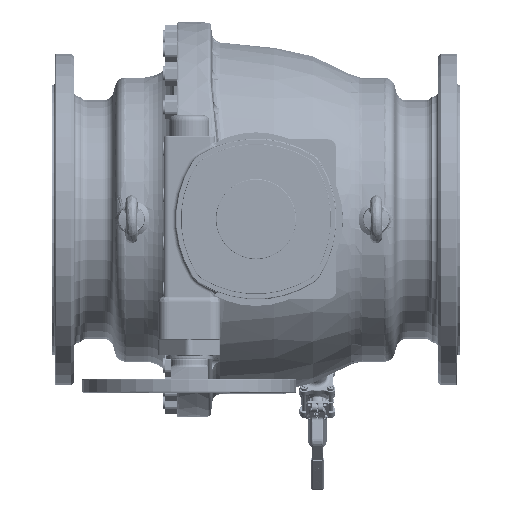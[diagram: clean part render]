
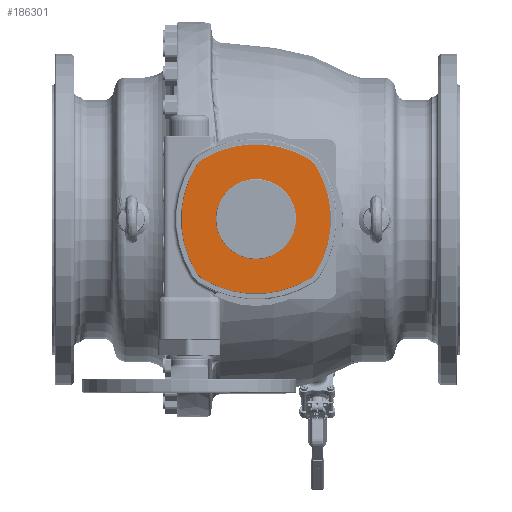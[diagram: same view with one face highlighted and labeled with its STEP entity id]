
A CAD part, top view. The second image highlights one B-rep face of the part: STEP entity #186301.
In plain terms, the highlighted planar face has unit normal (0, 0, 1).
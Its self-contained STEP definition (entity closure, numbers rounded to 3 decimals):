
#51503=CARTESIAN_POINT('',(0.,-50.,635.));
#51504=DIRECTION('',(0.,0.,-1.));
#51505=DIRECTION('',(-0.533,0.846,0.));
#51506=AXIS2_PLACEMENT_3D('',#51503,#51504,#51505);
#51517=CARTESIAN_POINT('',(85.34,85.34,635.));
#51518=DIRECTION('',(0.,0.,1.));
#51519=DIRECTION('',(0.846,0.533,0.));
#51520=AXIS2_PLACEMENT_3D('',#51517,#51518,#51519);
#51531=CARTESIAN_POINT('',(-50.,0.,635.));
#51532=DIRECTION('',(0.,0.,-1.));
#51533=DIRECTION('',(0.846,0.533,0.));
#51534=AXIS2_PLACEMENT_3D('',#51531,#51532,#51533);
#51545=CARTESIAN_POINT('',(85.34,-85.34,635.));
#51546=DIRECTION('',(0.,0.,1.));
#51547=DIRECTION('',(0.533,-0.846,0.));
#51548=AXIS2_PLACEMENT_3D('',#51545,#51546,#51547);
#51559=CARTESIAN_POINT('',(0.,50.,635.));
#51560=DIRECTION('',(0.,0.,-1.));
#51561=DIRECTION('',(0.533,-0.846,0.));
#51562=AXIS2_PLACEMENT_3D('',#51559,#51560,#51561);
#51573=CARTESIAN_POINT('',(-85.34,-85.34,635.));
#51574=DIRECTION('',(0.,0.,1.));
#51575=DIRECTION('',(-0.846,-0.533,0.));
#51576=AXIS2_PLACEMENT_3D('',#51573,#51574,#51575);
#51587=CARTESIAN_POINT('',(50.,0.,635.));
#51588=DIRECTION('',(0.,0.,-1.));
#51589=DIRECTION('',(-0.846,-0.533,0.));
#51590=AXIS2_PLACEMENT_3D('',#51587,#51588,#51589);
#51601=CARTESIAN_POINT('',(-85.34,85.34,635.));
#51602=DIRECTION('',(0.,0.,1.));
#51603=DIRECTION('',(-0.533,0.846,0.));
#51604=AXIS2_PLACEMENT_3D('',#51601,#51602,#51603);
#51606=CARTESIAN_POINT('',(0.,0.,635.));
#51607=DIRECTION('',(0.,0.,1.));
#51608=DIRECTION('',(-1.,0.,0.));
#51609=AXIS2_PLACEMENT_3D('',#51606,#51607,#51608);
#51611=CARTESIAN_POINT('',(0.,0.,635.));
#51612=DIRECTION('',(0.,0.,1.));
#51613=DIRECTION('',(1.,0.,0.));
#51614=AXIS2_PLACEMENT_3D('',#51611,#51612,#51613);
#81083=CARTESIAN_POINT('',(-75.,0.,635.));
#81084=CARTESIAN_POINT('',(75.,0.,635.));
#81085=VERTEX_POINT('',#81083);
#81086=VERTEX_POINT('',#81084);
#81087=CARTESIAN_POINT('',(101.342,-110.717,635.));
#81088=CARTESIAN_POINT('',(110.717,-101.342,635.));
#81089=VERTEX_POINT('',#81087);
#81090=VERTEX_POINT('',#81088);
#81091=CARTESIAN_POINT('',(110.717,101.342,635.));
#81092=VERTEX_POINT('',#81091);
#81093=CARTESIAN_POINT('',(101.342,110.717,635.));
#81094=VERTEX_POINT('',#81093);
#81095=CARTESIAN_POINT('',(-101.342,110.717,635.));
#81096=VERTEX_POINT('',#81095);
#81097=CARTESIAN_POINT('',(-110.717,101.342,635.));
#81098=VERTEX_POINT('',#81097);
#81099=CARTESIAN_POINT('',(-110.717,-101.342,635.));
#81100=VERTEX_POINT('',#81099);
#81101=CARTESIAN_POINT('',(-101.342,-110.717,635.));
#81102=VERTEX_POINT('',#81101);
#186280=CARTESIAN_POINT('',(0.,0.,635.));
#186281=DIRECTION('',(0.,0.,1.));
#186282=DIRECTION('',(1.,0.,0.));
#186283=AXIS2_PLACEMENT_3D('',#186280,#186281,#186282);
#186284=PLANE('',#186283);
#186285=ORIENTED_EDGE('',*,*,#186219,.F.);
#186286=ORIENTED_EDGE('',*,*,#186233,.T.);
#186287=ORIENTED_EDGE('',*,*,#186247,.F.);
#186288=ORIENTED_EDGE('',*,*,#186261,.T.);
#186289=ORIENTED_EDGE('',*,*,#186274,.F.);
#186290=ORIENTED_EDGE('',*,*,#186176,.T.);
#186291=ORIENTED_EDGE('',*,*,#186191,.F.);
#186292=ORIENTED_EDGE('',*,*,#186205,.T.);
#186293=EDGE_LOOP('',(#186285,#186286,#186287,#186288,#186289,#186290,#186291,
#186292));
#186294=FACE_OUTER_BOUND('',#186293,.F.);
#186296=ORIENTED_EDGE('',*,*,#186295,.T.);
#186298=ORIENTED_EDGE('',*,*,#186297,.T.);
#186299=EDGE_LOOP('',(#186296,#186298));
#186300=FACE_BOUND('',#186299,.F.);
#186301=ADVANCED_FACE('',(#186294,#186300),#186284,.T.);
#51507=CIRCLE('',#51506,190.);
#51521=CIRCLE('',#51520,30.);
#51535=CIRCLE('',#51534,190.);
#51549=CIRCLE('',#51548,30.);
#51563=CIRCLE('',#51562,190.);
#51577=CIRCLE('',#51576,30.);
#51591=CIRCLE('',#51590,190.);
#51605=CIRCLE('',#51604,30.);
#51610=CIRCLE('',#51609,75.);
#51615=CIRCLE('',#51614,75.);
#186176=EDGE_CURVE('',#81096,#81094,#51507,.T.);
#186191=EDGE_CURVE('',#81092,#81094,#51521,.T.);
#186205=EDGE_CURVE('',#81092,#81090,#51535,.T.);
#186219=EDGE_CURVE('',#81089,#81090,#51549,.T.);
#186233=EDGE_CURVE('',#81089,#81102,#51563,.T.);
#186247=EDGE_CURVE('',#81100,#81102,#51577,.T.);
#186261=EDGE_CURVE('',#81100,#81098,#51591,.T.);
#186274=EDGE_CURVE('',#81096,#81098,#51605,.T.);
#186295=EDGE_CURVE('',#81085,#81086,#51610,.T.);
#186297=EDGE_CURVE('',#81086,#81085,#51615,.T.);
